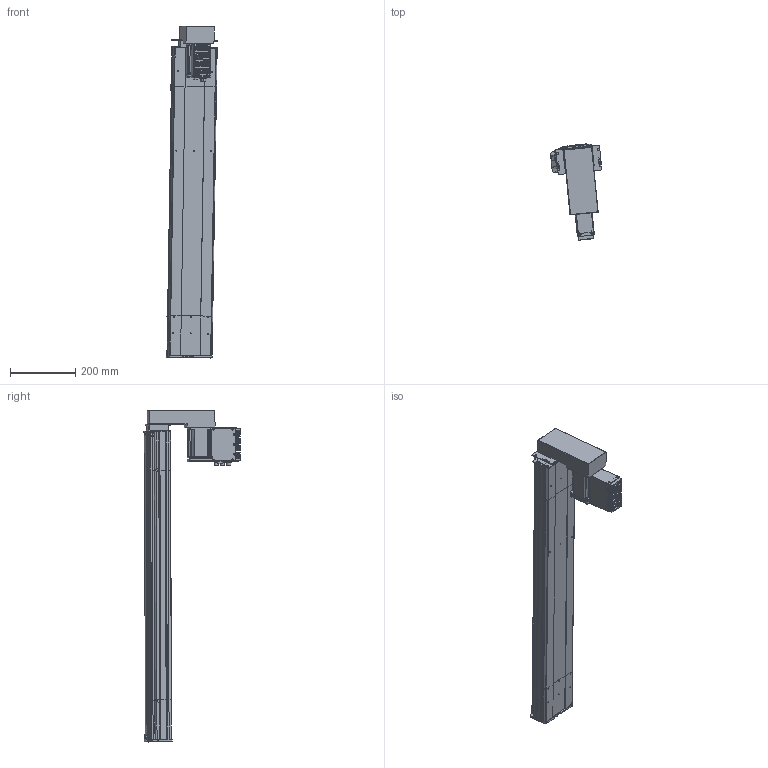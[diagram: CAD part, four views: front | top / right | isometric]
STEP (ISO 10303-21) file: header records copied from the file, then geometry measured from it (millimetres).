
FILE_DESCRIPTION (( 'STEP AP203' ), '1' );
FILE_NAME ('D14 TSH M4 BM L10 S700.STEP', '2012-10-11T12:11:17', ( '' ), ( '' ), 'SwSTEP 2.0', 'SolidWorks 2010', '' );
FILE_SCHEMA (( 'CONFIG_CONTROL_DESIGN' ));
Products named in the file (22): Moteur_2; T犨e contre le moteur_2; Tôle latérale_2; Couvercle_2; Connecteur rond D12 4cts_2; plaque de  bout tail D14_Default_2; couvercle D14 head_Default_2; D14 TSH M4 BM L10 S700; corp head D14_Default_2; plaque de  bout head D14 MD_Default_2; corpl tail D14_Default_2; Sub D 9cts_2; T犨e fond_2; Connecteur rond D10 3cts_2; Tôle Arrière_2; Moteur 70BLDC90A_2; Colonnette_2; Radiateur_2; Vis TF 3 torkx_2; Pièce702; Pièce700; plaque de bout head D14 BM
Assembly tree (49 placements, depth 3):
  D14 TSH M4 BM L10 S700
    corp head D14_Default_2
    couvercle D14 head_Default_2  x2
    plaque de bout head D14 BM
    plaque de  bout tail D14_Default_2
    Pièce700
    Moteur_2
      Vis TF 3 torkx_2  x26
      Connecteur rond D10 3cts_2  x2
      T犨e fond_2
      Couvercle_2
      Tôle latérale_2  x2
      T犨e contre le moteur_2
      Sub D 9cts_2
      Tôle Arrière_2
      Radiateur_2
      Colonnette_2
      Connecteur rond D12 4cts_2
      Moteur 70BLDC90A_2
    Pièce702
    plaque de  bout head D14 MD_Default_2
    corpl tail D14_Default_2
Bounding box: 156.13 x 294.6 x 1014.01 mm (x, y, z)
Volume: 4059114.5 mm3; surface area: 1207030.5 mm2
Topology: 70 solids, 70 shells, 2415 faces, 6303 edges, 4155 vertices
Faces by surface type: plane 1300, cylinder 851, cone 134, bspline 130
Entity records: 64759 total; most frequent: CARTESIAN_POINT 20869, ORIENTED_EDGE 8564, DIRECTION 8203, EDGE_CURVE 4282, VECTOR 2853, LINE 2853, VERTEX_POINT 2829, AXIS2_PLACEMENT_3D 2675
